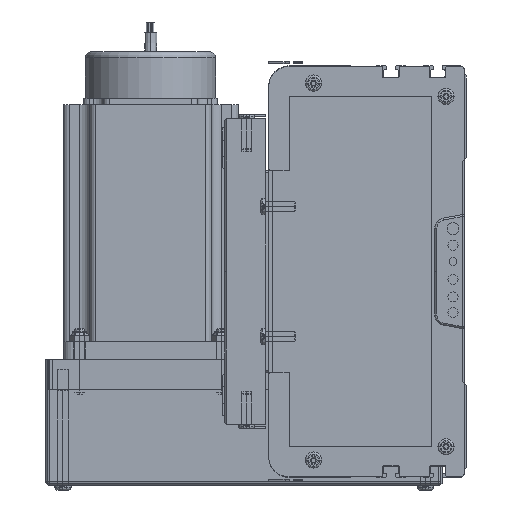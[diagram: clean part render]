
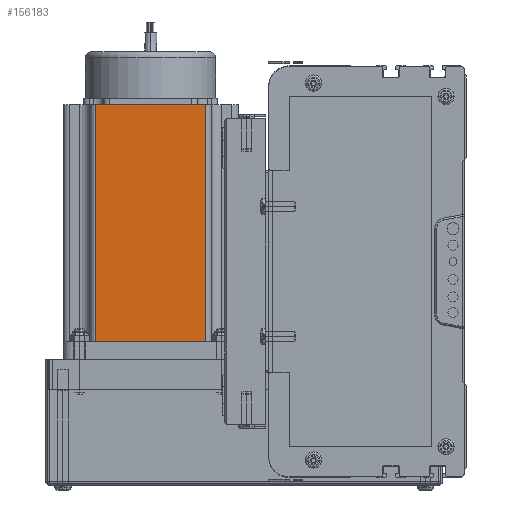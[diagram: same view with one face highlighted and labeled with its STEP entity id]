
A CAD part, left-side view. The second image highlights one B-rep face of the part: STEP entity #156183.
In plain terms, the highlighted planar face has unit normal (-1, 0, 0) as drawn and (0, -1, 0) by its records, which use the part's own axes.
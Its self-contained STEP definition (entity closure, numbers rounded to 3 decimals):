
#5638 = DIRECTION ( 'NONE',  ( 0., 0., -1. ) ) ;
#5640 = VECTOR ( 'NONE', #5638, 1000. ) ;
#5650 = LINE ( 'NONE', #5653, #5640 ) ;
#5653 = CARTESIAN_POINT ( 'NONE',  ( 16.16, 0., 116.5 ) ) ;
#5865 = CARTESIAN_POINT ( 'NONE',  ( 69.74, 0., 116.5 ) ) ;
#5938 = DIRECTION ( 'NONE',  ( 1., 0., 0. ) ) ;
#5954 = VECTOR ( 'NONE', #5938, 1000. ) ;
#5957 = CARTESIAN_POINT ( 'NONE',  ( 0., 0., 0. ) ) ;
#5981 = LINE ( 'NONE', #5957, #5954 ) ;
#83599 = DIRECTION ( 'NONE',  ( 0., 0., 1. ) ) ;
#83600 = DIRECTION ( 'NONE',  ( 0., 1., 0. ) ) ;
#83605 = CARTESIAN_POINT ( 'NONE',  ( 69.74, 0., 116.5 ) ) ;
#83606 = LINE ( 'NONE', #83605, #83673 ) ;
#83608 = AXIS2_PLACEMENT_3D ( 'NONE', #83610, #83600, #83599 ) ;
#83610 = CARTESIAN_POINT ( 'NONE',  ( 0., 0., 116.5 ) ) ;
#83611 = FACE_OUTER_BOUND ( 'NONE', #144666, .T. ) ;
#83612 = CARTESIAN_POINT ( 'NONE',  ( 69.74, 0., 0. ) ) ;
#83619 = CARTESIAN_POINT ( 'NONE',  ( 16.16, 0., 0. ) ) ;
#83622 = PLANE ( 'NONE',  #83608 ) ;
#83626 = CARTESIAN_POINT ( 'NONE',  ( 16.16, 0., 116.5 ) ) ;
#83664 = DIRECTION ( 'NONE',  ( 1., 0., 0. ) ) ;
#83665 = VECTOR ( 'NONE', #83664, 1000. ) ;
#83666 = CARTESIAN_POINT ( 'NONE',  ( 0., 0., 116.5 ) ) ;
#83667 = LINE ( 'NONE', #83666, #83665 ) ;
#83672 = DIRECTION ( 'NONE',  ( 0., 0., 1. ) ) ;
#83673 = VECTOR ( 'NONE', #83672, 1000. ) ;
#144666 = EDGE_LOOP ( 'NONE', ( #156247, #156284, #145212, #145448 ) ) ;
#145212 = ORIENTED_EDGE ( 'NONE', *, *, #156312, .F. ) ;
#145390 = EDGE_CURVE ( 'NONE', #156217, #156027, #5650, .T. ) ;
#145448 = ORIENTED_EDGE ( 'NONE', *, *, #145390, .T. ) ;
#147726 = VERTEX_POINT ( 'NONE', #5865 ) ;
#147833 = EDGE_CURVE ( 'NONE', #156027, #156140, #5981, .T. ) ;
#156027 = VERTEX_POINT ( 'NONE', #83619 ) ;
#156140 = VERTEX_POINT ( 'NONE', #83612 ) ;
#156183 = ADVANCED_FACE ( 'NONE', ( #83611 ), #83622, .F. ) ;
#156217 = VERTEX_POINT ( 'NONE', #83626 ) ;
#156247 = ORIENTED_EDGE ( 'NONE', *, *, #147833, .T. ) ;
#156250 = EDGE_CURVE ( 'NONE', #156140, #147726, #83606, .T. ) ;
#156284 = ORIENTED_EDGE ( 'NONE', *, *, #156250, .T. ) ;
#156312 = EDGE_CURVE ( 'NONE', #156217, #147726, #83667, .T. ) ;
